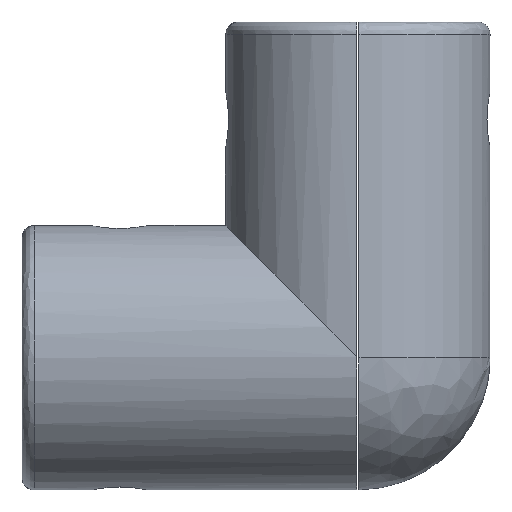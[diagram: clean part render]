
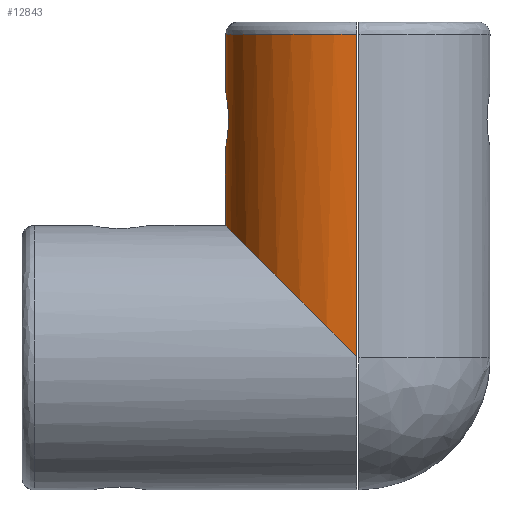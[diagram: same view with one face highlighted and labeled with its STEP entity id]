
A CAD part, front view. The second image highlights one B-rep face of the part: STEP entity #12843.
In plain terms, the highlighted cylindrical face has radius 32.5 mm (diameter 65 mm), a partial arc.
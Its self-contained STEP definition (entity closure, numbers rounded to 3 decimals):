
#123 = CARTESIAN_POINT ( 'NONE',  ( -31.905, -6.19, 61.558 ) ) ;
#195 = CARTESIAN_POINT ( 'NONE',  ( -32.358, -3.064, 64.699 ) ) ;
#259 = CARTESIAN_POINT ( 'NONE',  ( -32.156, -4.721, 63.537 ) ) ;
#330 = CARTESIAN_POINT ( 'NONE',  ( -31.759, -6.9, 58.054 ) ) ;
#860 = LINE ( 'NONE', #1801, #5656 ) ;
#1084 = DIRECTION ( 'NONE',  ( 0., 0., -1. ) ) ;
#1092 = EDGE_CURVE ( 'NONE', #6679, #11544, #3250, .T. ) ;
#1124 = CARTESIAN_POINT ( 'NONE',  ( -32.5, 0., 51.6 ) ) ;
#1192 = CARTESIAN_POINT ( 'NONE',  ( -32.18, -4.561, 53.303 ) ) ;
#1340 = CARTESIAN_POINT ( 'NONE',  ( -32.452, -1.788, 65.168 ) ) ;
#1401 = CARTESIAN_POINT ( 'NONE',  ( -32.035, -5.482, 62.715 ) ) ;
#1636 = CARTESIAN_POINT ( 'NONE',  ( -32.5, -18.899, 32.5 ) ) ;
#1801 = CARTESIAN_POINT ( 'NONE',  ( -0.3, -32.499, 82.5 ) ) ;
#1962 = DIRECTION ( 'NONE',  ( 0., 0., -1. ) ) ;
#1984 = ORIENTED_EDGE ( 'NONE', *, *, #13109, .T. ) ;
#2050 = ORIENTED_EDGE ( 'NONE', *, *, #9693, .T. ) ;
#2162 = LINE ( 'NONE', #13888, #10394 ) ;
#2199 = CARTESIAN_POINT ( 'NONE',  ( -32.356, -3.063, 52.313 ) ) ;
#2265 = CARTESIAN_POINT ( 'NONE',  ( -32.251, -4.021, 64.112 ) ) ;
#2287 = LINE ( 'NONE', #13084, #8068 ) ;
#2337 = CARTESIAN_POINT ( 'NONE',  ( -32.409, -2.438, 64.959 ) ) ;
#2414 = CARTESIAN_POINT ( 'NONE',  ( -32.318, -3.459, 64.487 ) ) ;
#2545 = ORIENTED_EDGE ( 'NONE', *, *, #1092, .T. ) ;
#2759 = EDGE_LOOP ( 'NONE', ( #9800, #10578, #2545, #2050, #12359, #1984 ) ) ;
#3204 = CARTESIAN_POINT ( 'NONE',  ( 0., 0., 79.5 ) ) ;
#3250 = B_SPLINE_CURVE_WITH_KNOTS ( 'NONE', 3,
 ( #9844, #12136, #12069, #13343, #1340, #3558, #2337, #195, #2414, #2265, #11131, #10921, #259, #3347, #1401, #8913, #5764, #123, #4483, #9991, #4699, #6695, #5700, #10126, #330, #7613, #9059, #8840, #11061, #7753, #13203, #6628, #4553, #10989, #1192, #5557, #3485, #13413, #2199, #7825, #12211, #6771, #11998, #6555, #1124 ),
 .UNSPECIFIED., .F., .F.,
 ( 4, 2, 2, 2, 2, 2, 2, 2, 2, 1, 2, 2, 2, 2, 2, 2, 2, 2, 2, 2, 2, 2, 4 ),
 ( 0., 0.001, 0.002, 0.003, 0.004, 0.005, 0.005, 0.007, 0.007, 0.008, 0.009, 0.009, 0.011, 0.012, 0.014, 0.014, 0.015, 0.016, 0.018, 0.018, 0.019, 0.02, 0.022 ),
 .UNSPECIFIED. ) ;
#3347 = CARTESIAN_POINT ( 'NONE',  ( -32.083, -5.196, 63.062 ) ) ;
#3372 = EDGE_CURVE ( 'NONE', #8988, #11127, #4675, .T. ) ;
#3485 = CARTESIAN_POINT ( 'NONE',  ( -32.294, -3.655, 52.644 ) ) ;
#3558 = CARTESIAN_POINT ( 'NONE',  ( -32.425, -2.222, 65.036 ) ) ;
#3896 = EDGE_CURVE ( 'NONE', #11127, #6679, #2162, .T. ) ;
#4313 = CYLINDRICAL_SURFACE ( 'NONE', #13868, 32.5 ) ;
#4483 = CARTESIAN_POINT ( 'NONE',  ( -31.868, -6.382, 61.152 ) ) ;
#4553 = CARTESIAN_POINT ( 'NONE',  ( -32.034, -5.488, 54.294 ) ) ;
#4675 = CIRCLE ( 'NONE', #6499, 32.5 ) ;
#4699 = CARTESIAN_POINT ( 'NONE',  ( -31.809, -6.666, 60.296 ) ) ;
#4986 = CARTESIAN_POINT ( 'NONE',  ( -32.5, 0., 65.4 ) ) ;
#5557 = CARTESIAN_POINT ( 'NONE',  ( -32.228, -4.215, 53.018 ) ) ;
#5656 = VECTOR ( 'NONE', #11736, 1000. ) ;
#5700 = CARTESIAN_POINT ( 'NONE',  ( -31.769, -6.855, 59.406 ) ) ;
#5764 = CARTESIAN_POINT ( 'NONE',  ( -31.946, -5.977, 61.955 ) ) ;
#6499 = AXIS2_PLACEMENT_3D ( 'NONE', #3204, #6552, #11996 ) ;
#6552 = DIRECTION ( 'NONE',  ( 0., 0., -1. ) ) ;
#6555 = CARTESIAN_POINT ( 'NONE',  ( -32.5, -0.457, 51.6 ) ) ;
#6628 = CARTESIAN_POINT ( 'NONE',  ( -31.967, -5.862, 54.854 ) ) ;
#6679 = VERTEX_POINT ( 'NONE', #4986 ) ;
#6695 = CARTESIAN_POINT ( 'NONE',  ( -31.797, -6.722, 60.074 ) ) ;
#6768 = CARTESIAN_POINT ( 'NONE',  ( -32.5, 0., 79.5 ) ) ;
#6771 = CARTESIAN_POINT ( 'NONE',  ( -32.453, -1.802, 51.824 ) ) ;
#7387 = CARTESIAN_POINT ( 'NONE',  ( -32.5, 0., 51.6 ) ) ;
#7613 = CARTESIAN_POINT ( 'NONE',  ( -31.769, -6.855, 57.596 ) ) ;
#7660 = CARTESIAN_POINT ( 'NONE',  ( -32.5, 0., 32.5 ) ) ;
#7753 = CARTESIAN_POINT ( 'NONE',  ( -31.905, -6.191, 55.445 ) ) ;
#7825 = CARTESIAN_POINT ( 'NONE',  ( -32.375, -2.857, 52.215 ) ) ;
#8068 = VECTOR ( 'NONE', #11949, 1000. ) ;
#8195 = CARTESIAN_POINT ( 'NONE',  ( -19.198, -32.324, 19.198 ) ) ;
#8665 =( BOUNDED_CURVE ( )  B_SPLINE_CURVE ( 3, ( #11429, #8195, #1636, #9493 ),
 .UNSPECIFIED., .F., .F. ) 
 B_SPLINE_CURVE_WITH_KNOTS ( ( 4, 4 ),
 ( 1.58, 3.142 ),
 .UNSPECIFIED. ) 
 CURVE ( )  GEOMETRIC_REPRESENTATION_ITEM ( )  RATIONAL_B_SPLINE_CURVE ( ( 1., 0.807, 0.807, 1. ) ) 
 REPRESENTATION_ITEM ( '' )  );
#8840 = CARTESIAN_POINT ( 'NONE',  ( -31.834, -6.549, 56.279 ) ) ;
#8913 = CARTESIAN_POINT ( 'NONE',  ( -31.968, -5.86, 62.15 ) ) ;
#8988 = VERTEX_POINT ( 'NONE', #10912 ) ;
#9059 = CARTESIAN_POINT ( 'NONE',  ( -31.806, -6.679, 56.71 ) ) ;
#9493 = CARTESIAN_POINT ( 'NONE',  ( -32.5, 0., 32.5 ) ) ;
#9597 = CARTESIAN_POINT ( 'NONE',  ( 0., 0., 82.5 ) ) ;
#9693 = EDGE_CURVE ( 'NONE', #11544, #14141, #2287, .T. ) ;
#9800 = ORIENTED_EDGE ( 'NONE', *, *, #3372, .T. ) ;
#9844 = CARTESIAN_POINT ( 'NONE',  ( -32.5, 0., 65.4 ) ) ;
#9991 = CARTESIAN_POINT ( 'NONE',  ( -31.836, -6.534, 60.728 ) ) ;
#10126 = CARTESIAN_POINT ( 'NONE',  ( -31.759, -6.9, 58.957 ) ) ;
#10394 = VECTOR ( 'NONE', #1084, 1000. ) ;
#10578 = ORIENTED_EDGE ( 'NONE', *, *, #3896, .T. ) ;
#10607 = VERTEX_POINT ( 'NONE', #10650 ) ;
#10650 = CARTESIAN_POINT ( 'NONE',  ( -0.3, -32.499, 0.3 ) ) ;
#10855 = EDGE_CURVE ( 'NONE', #10607, #14141, #8665, .T. ) ;
#10912 = CARTESIAN_POINT ( 'NONE',  ( -0.3, -32.499, 79.5 ) ) ;
#10921 = CARTESIAN_POINT ( 'NONE',  ( -32.18, -4.554, 63.689 ) ) ;
#10989 = CARTESIAN_POINT ( 'NONE',  ( -32.083, -5.202, 53.944 ) ) ;
#11061 = CARTESIAN_POINT ( 'NONE',  ( -31.886, -6.289, 55.651 ) ) ;
#11127 = VERTEX_POINT ( 'NONE', #6768 ) ;
#11131 = CARTESIAN_POINT ( 'NONE',  ( -32.227, -4.204, 63.976 ) ) ;
#11429 = CARTESIAN_POINT ( 'NONE',  ( -0.3, -32.499, 0.3 ) ) ;
#11544 = VERTEX_POINT ( 'NONE', #7387 ) ;
#11736 = DIRECTION ( 'NONE',  ( 0., 0., 1. ) ) ;
#11949 = DIRECTION ( 'NONE',  ( 0., 0., -1. ) ) ;
#11996 = DIRECTION ( 'NONE',  ( -1., 0., 0. ) ) ;
#11998 = CARTESIAN_POINT ( 'NONE',  ( -32.49, -0.915, 51.646 ) ) ;
#12069 = CARTESIAN_POINT ( 'NONE',  ( -32.49, -0.906, 65.355 ) ) ;
#12136 = CARTESIAN_POINT ( 'NONE',  ( -32.5, -0.457, 65.4 ) ) ;
#12211 = CARTESIAN_POINT ( 'NONE',  ( -32.426, -2.232, 51.955 ) ) ;
#12359 = ORIENTED_EDGE ( 'NONE', *, *, #10855, .F. ) ;
#12843 = ADVANCED_FACE ( 'NONE', ( #14096 ), #4313, .T. ) ;
#13028 = DIRECTION ( 'NONE',  ( -1., 0., 0. ) ) ;
#13084 = CARTESIAN_POINT ( 'NONE',  ( -32.5, 0., 82.5 ) ) ;
#13109 = EDGE_CURVE ( 'NONE', #10607, #8988, #860, .T. ) ;
#13203 = CARTESIAN_POINT ( 'NONE',  ( -31.946, -5.978, 55.047 ) ) ;
#13343 = CARTESIAN_POINT ( 'NONE',  ( -32.463, -1.569, 65.223 ) ) ;
#13413 = CARTESIAN_POINT ( 'NONE',  ( -32.316, -3.462, 52.527 ) ) ;
#13868 = AXIS2_PLACEMENT_3D ( 'NONE', #9597, #1962, #13028 ) ;
#13888 = CARTESIAN_POINT ( 'NONE',  ( -32.5, 0., 82.5 ) ) ;
#14096 = FACE_OUTER_BOUND ( 'NONE', #2759, .T. ) ;
#14141 = VERTEX_POINT ( 'NONE', #7660 ) ;
